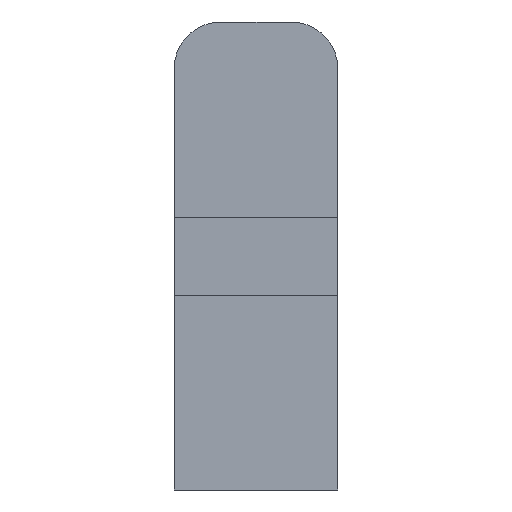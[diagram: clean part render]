
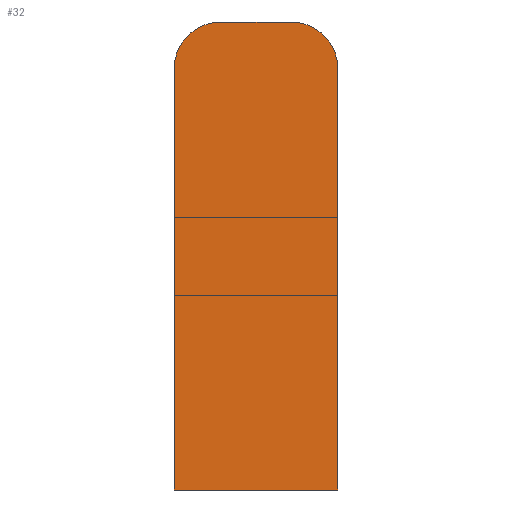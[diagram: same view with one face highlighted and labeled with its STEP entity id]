
A CAD part, front view. The second image highlights one B-rep face of the part: STEP entity #32.
In plain terms, the highlighted planar face has unit normal (0, -1, 0).
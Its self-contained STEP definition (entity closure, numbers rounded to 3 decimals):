
#7 = EDGE_CURVE ( 'NONE', #129, #123, #174, .T. ) ;
#12 = EDGE_CURVE ( 'NONE', #143, #129, #180, .T. ) ;
#26 = EDGE_CURVE ( 'NONE', #133, #137, #191, .T. ) ;
#28 = AXIS2_PLACEMENT_3D ( 'NONE', #261, #260, #317 ) ;
#29 = EDGE_CURVE ( 'NONE', #122, #133, #203, .T. ) ;
#32 = ADVANCED_FACE ( 'NONE', ( #205 ), #388, .F. ) ;
#55 = EDGE_LOOP ( 'NONE', ( #94, #95, #96, #97, #98, #99 ) ) ;
#94 = ORIENTED_EDGE ( 'NONE', *, *, #26, .T. ) ;
#95 = ORIENTED_EDGE ( 'NONE', *, *, #405, .T. ) ;
#96 = ORIENTED_EDGE ( 'NONE', *, *, #12, .T. ) ;
#97 = ORIENTED_EDGE ( 'NONE', *, *, #7, .T. ) ;
#98 = ORIENTED_EDGE ( 'NONE', *, *, #411, .T. ) ;
#99 = ORIENTED_EDGE ( 'NONE', *, *, #29, .T. ) ;
#122 = VERTEX_POINT ( 'NONE', #328 ) ;
#123 = VERTEX_POINT ( 'NONE', #323 ) ;
#129 = VERTEX_POINT ( 'NONE', #319 ) ;
#133 = VERTEX_POINT ( 'NONE', #315 ) ;
#137 = VERTEX_POINT ( 'NONE', #310 ) ;
#143 = VERTEX_POINT ( 'NONE', #306 ) ;
#146 = CIRCLE ( 'NONE', #249, 3. ) ;
#147 = LINE ( 'NONE', #287, #153 ) ;
#153 = VECTOR ( 'NONE', #270, 1000. ) ;
#174 = CIRCLE ( 'NONE', #28, 3. ) ;
#180 = LINE ( 'NONE', #292, #181 ) ;
#181 = VECTOR ( 'NONE', #294, 1000. ) ;
#191 = LINE ( 'NONE', #363, #201 ) ;
#201 = VECTOR ( 'NONE', #382, 1000. ) ;
#203 = LINE ( 'NONE', #380, #204 ) ;
#204 = VECTOR ( 'NONE', #379, 1000. ) ;
#205 = FACE_OUTER_BOUND ( 'NONE', #55, .T. ) ;
#233 = AXIS2_PLACEMENT_3D ( 'NONE', #377, #365, #364 ) ;
#249 = AXIS2_PLACEMENT_3D ( 'NONE', #295, #290, #289 ) ;
#260 = DIRECTION ( 'NONE',  ( 0., -1., 0. ) ) ;
#261 = CARTESIAN_POINT ( 'NONE',  ( -2.25, 0., 10.5 ) ) ;
#270 = DIRECTION ( 'NONE',  ( 0., 0., -1. ) ) ;
#287 = CARTESIAN_POINT ( 'NONE',  ( -5.25, 0., -16.5 ) ) ;
#289 = DIRECTION ( 'NONE',  ( -1., 0., 0. ) ) ;
#290 = DIRECTION ( 'NONE',  ( 0., -1., 0. ) ) ;
#292 = CARTESIAN_POINT ( 'NONE',  ( 2.25, 0., 13.5 ) ) ;
#294 = DIRECTION ( 'NONE',  ( -1., 0., 0. ) ) ;
#295 = CARTESIAN_POINT ( 'NONE',  ( 2.25, 0., 10.5 ) ) ;
#306 = CARTESIAN_POINT ( 'NONE',  ( 2.25, 0., 13.5 ) ) ;
#310 = CARTESIAN_POINT ( 'NONE',  ( 5.25, 0., 10.5 ) ) ;
#315 = CARTESIAN_POINT ( 'NONE',  ( 5.25, 0., -16.5 ) ) ;
#317 = DIRECTION ( 'NONE',  ( -1., 0., 0. ) ) ;
#319 = CARTESIAN_POINT ( 'NONE',  ( -2.25, 0., 13.5 ) ) ;
#323 = CARTESIAN_POINT ( 'NONE',  ( -5.25, 0., 10.5 ) ) ;
#328 = CARTESIAN_POINT ( 'NONE',  ( -5.25, 0., -16.5 ) ) ;
#363 = CARTESIAN_POINT ( 'NONE',  ( 5.25, 0., -16.5 ) ) ;
#364 = DIRECTION ( 'NONE',  ( -1., 0., 0. ) ) ;
#365 = DIRECTION ( 'NONE',  ( 0., 1., 0. ) ) ;
#377 = CARTESIAN_POINT ( 'NONE',  ( 0., 0., -1.5 ) ) ;
#379 = DIRECTION ( 'NONE',  ( 1., 0., 0. ) ) ;
#380 = CARTESIAN_POINT ( 'NONE',  ( 5.25, 0., -16.5 ) ) ;
#382 = DIRECTION ( 'NONE',  ( 0., 0., 1. ) ) ;
#388 = PLANE ( 'NONE',  #233 ) ;
#405 = EDGE_CURVE ( 'NONE', #137, #143, #146, .T. ) ;
#411 = EDGE_CURVE ( 'NONE', #123, #122, #147, .T. ) ;
